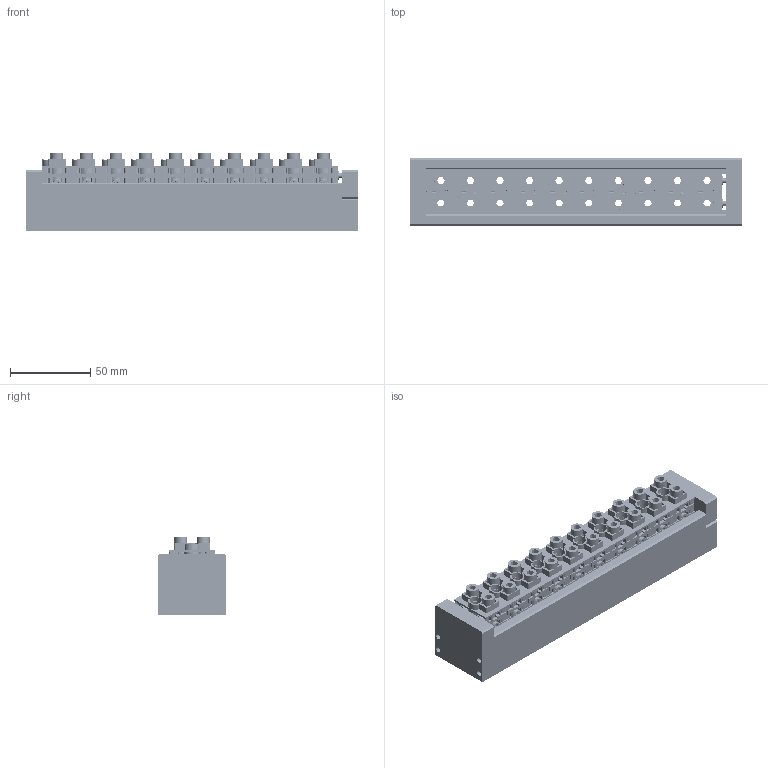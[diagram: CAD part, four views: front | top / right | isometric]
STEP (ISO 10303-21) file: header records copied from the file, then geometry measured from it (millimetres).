
FILE_DESCRIPTION(('CATIA V5 STEP Exchange'),'2;1');
FILE_NAME('C:\Users\hh\Desktop\AGZ102\装溢流端.stp','2023-09-23T05:41:49+00:00',('none'),('none'),'CATIA Version 5 Release 21 GA (IN-10)','CATIA V5 STEP AP214','none');
FILE_SCHEMA(('AUTOMOTIVE_DESIGN { 1 0 10303 214 1 1 1 1 }'));
Length unit declared in the file: millimetre
Products named in the file (8): Product1; 边条; 左挡板; 右挡边; 插挡; Product2; BPC0010200; Product3
Assembly tree (17 placements, depth 3):
  Product1
    边条  x2
    左挡板
    右挡边
    插挡
    Product2
      BPC0010200  x10
    Product3
Bounding box: 206.5 x 42 x 48.5 mm (x, y, z)
Volume: 185258.2 mm3; surface area: 119998.6 mm2
Topology: 15 solids, 55 shells, 6406 faces, 18386 edges, 12058 vertices
Faces by surface type: plane 3302, cylinder 1984, cone 390, bspline 220, torus 190, sphere 170, extrusion 150
Entity records: 24709 total; most frequent: CARTESIAN_POINT 7519, ORIENTED_EDGE 4024, DIRECTION 2649, EDGE_CURVE 2012, VERTEX_POINT 1334, VECTOR 1250, LINE 1235, AXIS2_PLACEMENT_3D 919
